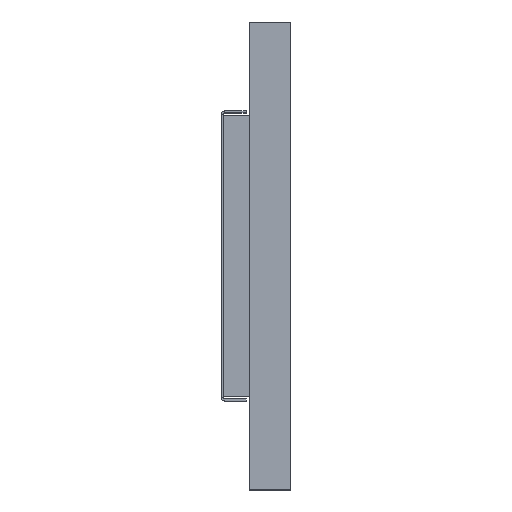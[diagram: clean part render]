
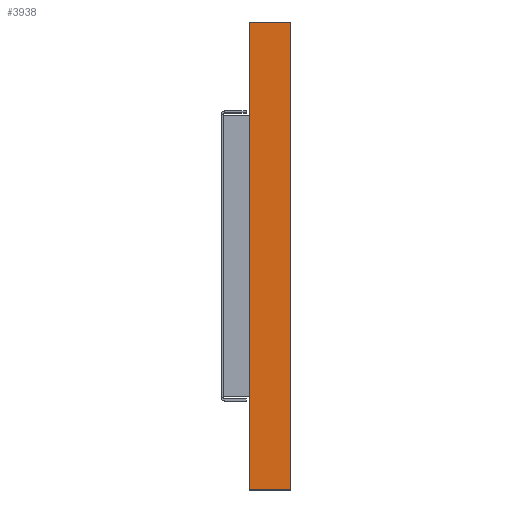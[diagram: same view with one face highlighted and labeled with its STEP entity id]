
A CAD part, left-side view. The second image highlights one B-rep face of the part: STEP entity #3938.
In plain terms, the highlighted planar face has unit normal (-1, 0, 0).
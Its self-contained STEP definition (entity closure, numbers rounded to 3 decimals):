
#6 = DIRECTION ( 'NONE',  ( 0., 0., -1. ) ) ;
#193 = DIRECTION ( 'NONE',  ( 0., -1., 0. ) ) ;
#354 = CARTESIAN_POINT ( 'NONE',  ( -258.592, -8.233, 36. ) ) ;
#563 = VERTEX_POINT ( 'NONE', #354 ) ;
#577 = FACE_OUTER_BOUND ( 'NONE', #2351, .T. ) ;
#630 = PLANE ( 'NONE',  #1463 ) ;
#738 = DIRECTION ( 'NONE',  ( 0., -1., 0. ) ) ;
#900 = CARTESIAN_POINT ( 'NONE',  ( -258.592, -8.233, -9. ) ) ;
#1012 = VECTOR ( 'NONE', #738, 1000. ) ;
#1113 = CARTESIAN_POINT ( 'NONE',  ( -258.592, -8.233, -9. ) ) ;
#1240 = CARTESIAN_POINT ( 'NONE',  ( -258.592, -12.233, -9. ) ) ;
#1261 = EDGE_CURVE ( 'NONE', #1994, #1317, #3191, .T. ) ;
#1289 = VECTOR ( 'NONE', #2413, 1000. ) ;
#1317 = VERTEX_POINT ( 'NONE', #1619 ) ;
#1463 = AXIS2_PLACEMENT_3D ( 'NONE', #900, #2123, #6 ) ;
#1524 = VECTOR ( 'NONE', #2467, 1000. ) ;
#1538 = CARTESIAN_POINT ( 'NONE',  ( -258.592, -12.233, 36. ) ) ;
#1543 = LINE ( 'NONE', #1240, #1524 ) ;
#1610 = EDGE_CURVE ( 'NONE', #1994, #563, #2044, .T. ) ;
#1619 = CARTESIAN_POINT ( 'NONE',  ( -258.592, -12.233, -9. ) ) ;
#1992 = CARTESIAN_POINT ( 'NONE',  ( -258.592, -8.233, -9. ) ) ;
#1994 = VERTEX_POINT ( 'NONE', #1113 ) ;
#2044 = LINE ( 'NONE', #3271, #1289 ) ;
#2123 = DIRECTION ( 'NONE',  ( 1., 0., 0. ) ) ;
#2241 = ORIENTED_EDGE ( 'NONE', *, *, #1261, .T. ) ;
#2351 = EDGE_LOOP ( 'NONE', ( #3496, #3146, #3054, #2241 ) ) ;
#2413 = DIRECTION ( 'NONE',  ( 0., 0., 1. ) ) ;
#2467 = DIRECTION ( 'NONE',  ( 0., 0., 1. ) ) ;
#2619 = EDGE_CURVE ( 'NONE', #563, #2796, #3471, .T. ) ;
#2796 = VERTEX_POINT ( 'NONE', #1538 ) ;
#3054 = ORIENTED_EDGE ( 'NONE', *, *, #1610, .F. ) ;
#3143 = CARTESIAN_POINT ( 'NONE',  ( -258.592, -8.233, 36. ) ) ;
#3146 = ORIENTED_EDGE ( 'NONE', *, *, #2619, .F. ) ;
#3191 = LINE ( 'NONE', #1992, #3256 ) ;
#3256 = VECTOR ( 'NONE', #193, 1000. ) ;
#3271 = CARTESIAN_POINT ( 'NONE',  ( -258.592, -8.233, -9. ) ) ;
#3471 = LINE ( 'NONE', #3143, #1012 ) ;
#3496 = ORIENTED_EDGE ( 'NONE', *, *, #3640, .T. ) ;
#3640 = EDGE_CURVE ( 'NONE', #1317, #2796, #1543, .T. ) ;
#3938 = ADVANCED_FACE ( 'NONE', ( #577 ), #630, .F. ) ;
